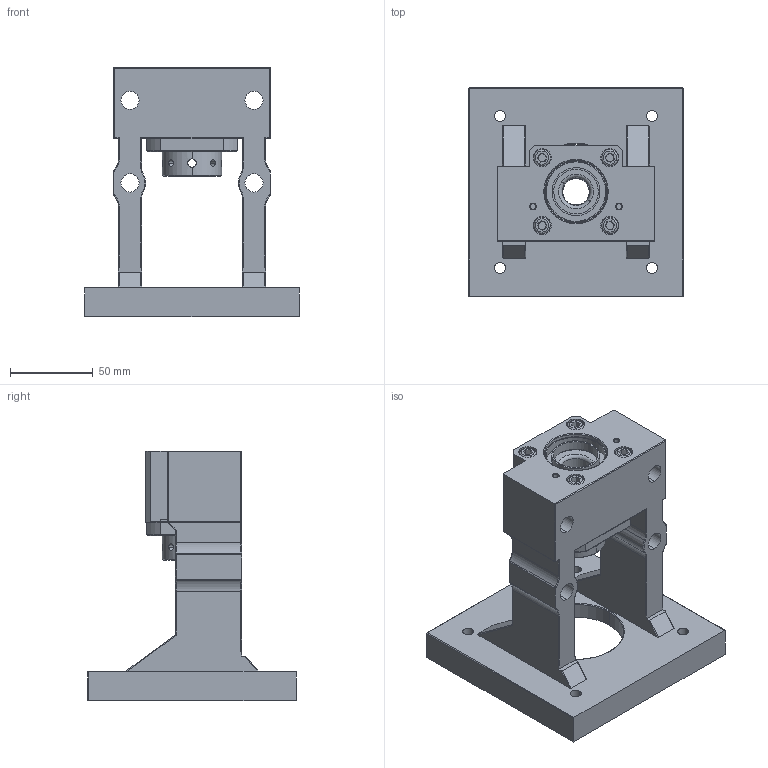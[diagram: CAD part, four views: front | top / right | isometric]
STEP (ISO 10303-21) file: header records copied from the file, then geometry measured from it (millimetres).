
FILE_DESCRIPTION (( 'STEP AP203' ), '1' );
FILE_NAME ('MBCS17-S.STEP', '2017-12-28T07:51:19', ( '' ), ( '' ), 'SwSTEP 2.0', 'SolidWorks 2017', '' );
FILE_SCHEMA (( 'CONFIG_CONTROL_DESIGN' ));
Length unit declared in the file: millimetre
Products named in the file (1): MBCS17-S
Bounding box: 130 x 126 x 151 mm (x, y, z)
Surface area: 106122.5 mm2 (no closed solid volume)
Topology: 0 solids, 16 shells, 363 faces, 928 edges, 578 vertices
Faces by surface type: cylinder 164, plane 99, cone 50, torus 48, sphere 2
Entity records: 11774 total; most frequent: CARTESIAN_POINT 2844, DIRECTION 1966, ORIENTED_EDGE 1716, EDGE_CURVE 918, AXIS2_PLACEMENT_3D 770, VERTEX_POINT 578, EDGE_LOOP 430, VECTOR 426
